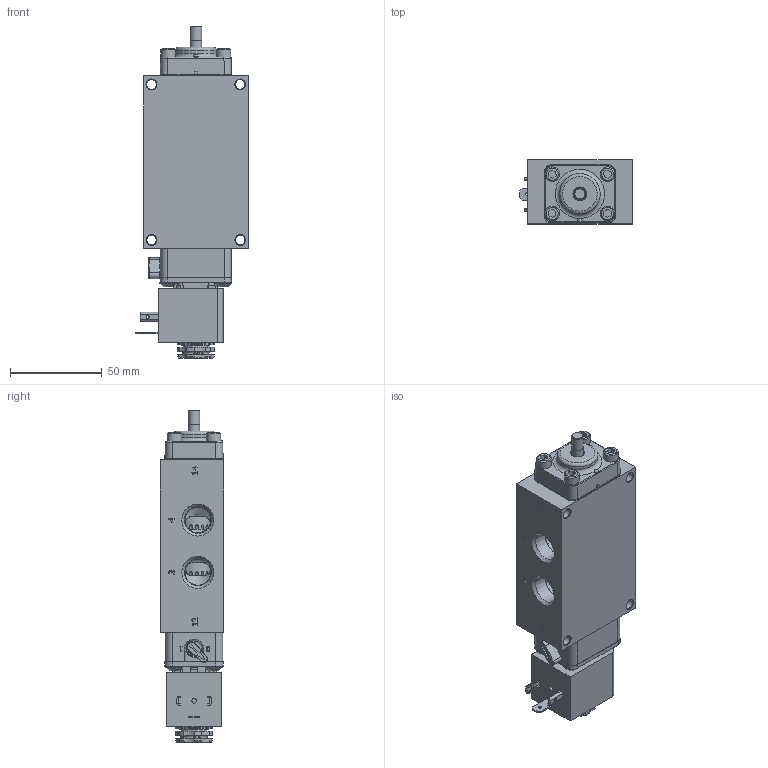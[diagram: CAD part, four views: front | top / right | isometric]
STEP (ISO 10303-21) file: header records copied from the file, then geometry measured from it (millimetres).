
FILE_DESCRIPTION(/* description */ (''),/* implementation_level */ '2;1');
FILE_NAME(/* name */ 'D:\Website New\Valves\Standard\ESO\stp\ZESO3HOCK.stp',/* time_stamp */ '2020-03-22T11:45:34-04:00',/* author */ ('RMcKenna'),/* organization */ (''),/* preprocessor_version */ 'ST-DEVELOPER v17',/* originating_system */ 'Autodesk Inventor 2018',/* authorisation */ '');
FILE_SCHEMA (('AUTOMOTIVE_DESIGN { 1 0 10303 214 3 1 1 }'));
Products named in the file (1): Part17
Bounding box: 61.39 x 34.92 x 181.24 mm (x, y, z)
Volume: 219211.3 mm3; surface area: 76502.7 mm2
Topology: 1 solids, 19 shells, 1601 faces, 4084 edges, 2639 vertices
Faces by surface type: plane 741, cylinder 387, cone 261, torus 117, bspline 90, sphere 5
Full cylindrical faces by diameter (mm): 1.168 x10, 1.3 x1, 1.397 x1, 1.5 x1, 1.651 x2, 2.032 x8, 2.35 x4, 2.381 x1, 2.5 x2, 2.8 x1, 3 x4, 3.048 x1, 3.175 x1, 3.4 x1, 3.683 x9, 4.191 x2, 4.394 x1, 4.826 x8, 5.15 x4, 5.156 x12, 5.5 x1, 6.35 x4, 6.65 x1, 7.29 x1, 7.541 x1, 7.9 x1, 7.938 x4, 8 x2, 8.153 x1, 8.433 x1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
Entity records: 58925 total; most frequent: CARTESIAN_POINT 18355, ORIENTED_EDGE 8144, DIRECTION 8054, EDGE_CURVE 4072, AXIS2_PLACEMENT_3D 2990, VERTEX_POINT 2639, LINE 2074, VECTOR 2074
